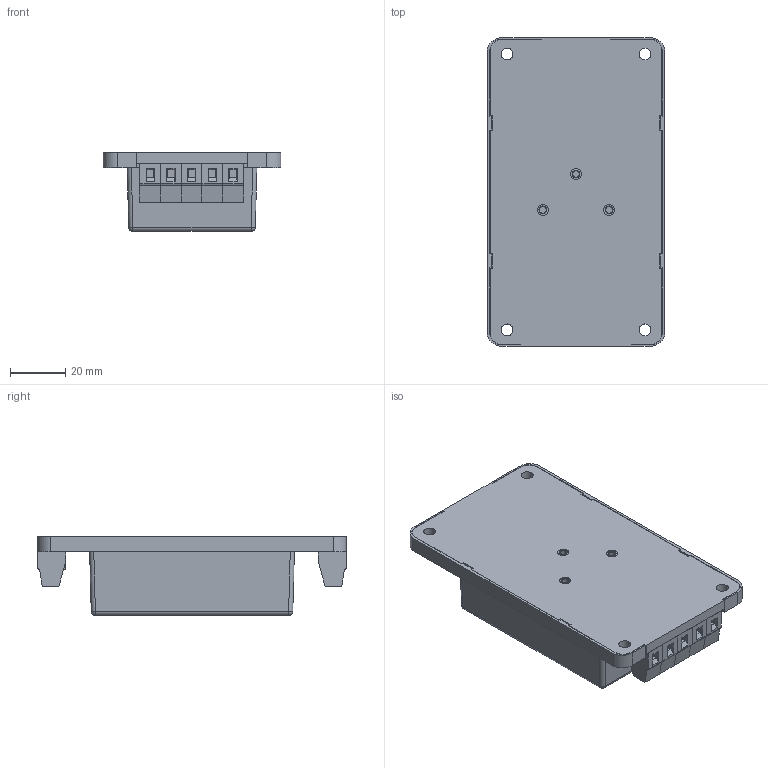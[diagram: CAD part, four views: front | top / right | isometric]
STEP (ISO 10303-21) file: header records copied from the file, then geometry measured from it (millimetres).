
FILE_DESCRIPTION(/* description */ (''),/* implementation_level */ '2;1');
FILE_NAME(/* name */ 'D:\Inventor\3D Files\200508\ANCH50 _ ARC60 - A2.stp',/* time_stamp */ '2020-04-22T17:10:09+08:00',/* author */ ('peter'),/* organization */ (''),/* preprocessor_version */ 'ST-DEVELOPER v15.2',/* originating_system */ 'Autodesk Inventor 2014',/* authorisation */ '');
FILE_SCHEMA (('AUTOMOTIVE_DESIGN { 1 0 10303 214 3 1 1 }'));
Length unit declared in the file: millimetre
Products named in the file (14): A2 PCB; A2 TOP CASE; A2 BOT CASE; M3 - 4 X 4 mm; DT-128-01; INLET - A2 - IN; FUSE; INLET - A2 - OUT; A2 防塵蓋; A2 ASSEMBLY; TOP CASE; BOT CASE; ARC60 for A2; ANCH50 _ ARC60 - A2
Bounding box: 64.5 x 111.9 x 28.6 mm (x, y, z)
Volume: 49761.6 mm3; surface area: 75750 mm2
Topology: 19 solids, 19 shells, 761 faces, 1970 edges, 1303 vertices
Faces by surface type: plane 592, cylinder 102, bspline 49, cone 14, sphere 4
Full cylindrical faces by diameter (mm): 1.3 x5, 1.4 x4, 2.459 x3, 2.5 x3, 3.8 x8, 4 x4, 4.3 x12, 6.5 x3, 6.9 x4
Entity records: 14844 total; most frequent: CARTESIAN_POINT 3126, ORIENTED_EDGE 2362, DIRECTION 2162, EDGE_CURVE 1181, LINE 908, VECTOR 908, VERTEX_POINT 807, AXIS2_PLACEMENT_3D 627
